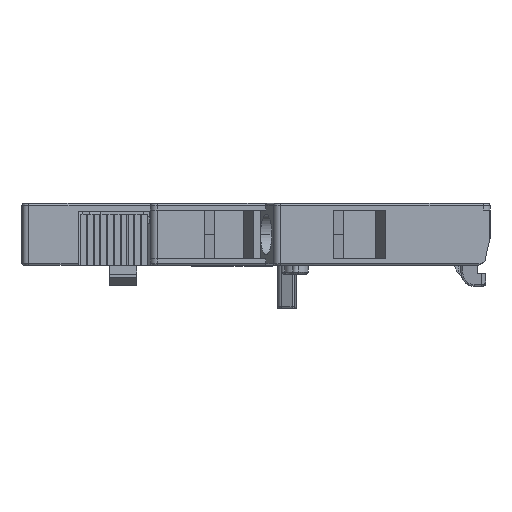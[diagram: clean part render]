
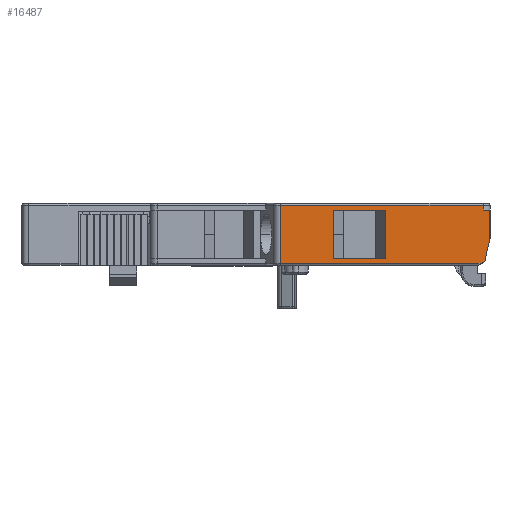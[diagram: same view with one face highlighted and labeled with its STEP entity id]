
A CAD part, left-side view. The second image highlights one B-rep face of the part: STEP entity #16487.
In plain terms, the highlighted planar face has unit normal (-1, 0, 0).
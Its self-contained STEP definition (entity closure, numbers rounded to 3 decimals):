
#1002=DIRECTION('',(0.,1.,0.));
#1003=VECTOR('',#1002,29.818);
#1004=CARTESIAN_POINT('',(-44.5,-49.018,0.3));
#1005=LINE('',#1004,#1003);
#1011=CARTESIAN_POINT('',(-44.5,-49.018,0.3));
#2248=DIRECTION('',(0.,-1.,0.));
#2249=VECTOR('',#2248,1.);
#2250=CARTESIAN_POINT('',(-44.5,-49.2,8.2));
#2251=LINE('',#2250,#2249);
#3213=DIRECTION('',(0.,-1.,0.));
#3214=VECTOR('',#3213,30.);
#3215=CARTESIAN_POINT('',(-44.5,-19.2,8.9));
#3216=LINE('',#3215,#3214);
#3259=DIRECTION('',(0.,0.,-1.));
#3260=VECTOR('',#3259,0.7);
#3261=CARTESIAN_POINT('',(-44.5,-49.2,8.9));
#3262=LINE('',#3261,#3260);
#3267=DIRECTION('',(0.,0.,1.));
#3268=VECTOR('',#3267,4.2);
#3269=CARTESIAN_POINT('',(-44.5,-50.2,4.));
#3270=LINE('',#3269,#3268);
#3271=DIRECTION('',(0.,-0.22,0.976));
#3272=VECTOR('',#3271,3.117);
#3273=CARTESIAN_POINT('',(-44.5,-49.516,0.959));
#3274=LINE('',#3273,#3272);
#3275=CARTESIAN_POINT('',(-44.5,-48.54,1.178));
#3276=DIRECTION('',(-1.,0.,0.));
#3277=DIRECTION('',(0.,-0.478,-0.878));
#3278=AXIS2_PLACEMENT_3D('',#3275,#3276,#3277);
#3280=DIRECTION('',(0.,-1.,0.));
#3281=VECTOR('',#3280,7.601);
#3282=CARTESIAN_POINT('',(-44.5,-27.1,8.2));
#3283=LINE('',#3282,#3281);
#3288=DIRECTION('',(0.,0.,-1.));
#3289=VECTOR('',#3288,8.6);
#3290=CARTESIAN_POINT('',(-44.5,-19.2,8.9));
#3291=LINE('',#3290,#3289);
#4050=DIRECTION('',(0.,0.,1.));
#4051=VECTOR('',#4050,7.2);
#4052=CARTESIAN_POINT('',(-44.5,-34.701,1.));
#4053=LINE('',#4052,#4051);
#4058=DIRECTION('',(0.,-1.,0.));
#4059=VECTOR('',#4058,7.602);
#4060=CARTESIAN_POINT('',(-44.5,-27.099,1.));
#4061=LINE('',#4060,#4059);
#4110=DIRECTION('',(0.,0.,-1.));
#4111=VECTOR('',#4110,3.6);
#4112=CARTESIAN_POINT('',(-44.5,-27.099,4.6));
#4113=LINE('',#4112,#4111);
#4114=DIRECTION('',(0.,1.,0.));
#4115=VECTOR('',#4114,0.001);
#4116=CARTESIAN_POINT('',(-44.5,-27.1,4.6));
#4117=LINE('',#4116,#4115);
#4122=DIRECTION('',(0.,0.,-1.));
#4123=VECTOR('',#4122,3.6);
#4124=CARTESIAN_POINT('',(-44.5,-27.1,8.2));
#4125=LINE('',#4124,#4123);
#8625=CARTESIAN_POINT('',(-44.5,-50.2,4.));
#8626=VERTEX_POINT('',#8625);
#8627=CARTESIAN_POINT('',(-44.5,-50.2,8.2));
#8628=VERTEX_POINT('',#8627);
#8631=CARTESIAN_POINT('',(-44.5,-49.516,0.959));
#8632=VERTEX_POINT('',#8631);
#8633=VERTEX_POINT('',#1011);
#8634=CARTESIAN_POINT('',(-44.5,-19.2,0.3));
#8635=VERTEX_POINT('',#8634);
#8636=CARTESIAN_POINT('',(-44.5,-27.099,1.));
#8637=CARTESIAN_POINT('',(-44.5,-34.701,1.));
#8638=VERTEX_POINT('',#8636);
#8639=VERTEX_POINT('',#8637);
#9995=CARTESIAN_POINT('',(-44.5,-27.1,8.2));
#9997=VERTEX_POINT('',#9995);
#10093=CARTESIAN_POINT('',(-44.5,-19.2,8.9));
#10094=VERTEX_POINT('',#10093);
#10095=CARTESIAN_POINT('',(-44.5,-49.2,8.9));
#10096=VERTEX_POINT('',#10095);
#10097=CARTESIAN_POINT('',(-44.5,-27.1,4.6));
#10098=VERTEX_POINT('',#10097);
#10267=CARTESIAN_POINT('',(-44.5,-49.2,8.2));
#10269=VERTEX_POINT('',#10267);
#10271=CARTESIAN_POINT('',(-44.5,-34.701,8.2));
#10273=VERTEX_POINT('',#10271);
#10276=CARTESIAN_POINT('',(-44.5,-27.099,4.6));
#10278=VERTEX_POINT('',#10276);
#16455=CARTESIAN_POINT('',(-44.5,-18.2,0.));
#16456=DIRECTION('',(-1.,0.,0.));
#16457=DIRECTION('',(0.,-1.,0.));
#16458=AXIS2_PLACEMENT_3D('',#16455,#16456,#16457);
#16459=PLANE('',#16458);
#16461=ORIENTED_EDGE('',*,*,#16460,.F.);
#16462=ORIENTED_EDGE('',*,*,#16361,.T.);
#16463=ORIENTED_EDGE('',*,*,#16441,.T.);
#16464=ORIENTED_EDGE('',*,*,#14570,.T.);
#16466=ORIENTED_EDGE('',*,*,#16465,.F.);
#16468=ORIENTED_EDGE('',*,*,#16467,.F.);
#16470=ORIENTED_EDGE('',*,*,#16469,.F.);
#16471=ORIENTED_EDGE('',*,*,#12078,.T.);
#16472=EDGE_LOOP('',(#16461,#16462,#16463,#16464,#16466,#16468,#16470,#16471));
#16473=FACE_OUTER_BOUND('',#16472,.F.);
#16475=ORIENTED_EDGE('',*,*,#16474,.T.);
#16476=ORIENTED_EDGE('',*,*,#13168,.F.);
#16478=ORIENTED_EDGE('',*,*,#16477,.T.);
#16480=ORIENTED_EDGE('',*,*,#16479,.T.);
#16482=ORIENTED_EDGE('',*,*,#16481,.T.);
#16484=ORIENTED_EDGE('',*,*,#16483,.T.);
#16485=EDGE_LOOP('',(#16475,#16476,#16478,#16480,#16482,#16484));
#16486=FACE_BOUND('',#16485,.F.);
#16487=ADVANCED_FACE('',(#16473,#16486),#16459,.T.);
#3279=CIRCLE('',#3278,1.);
#12078=EDGE_CURVE('',#8633,#8635,#1005,.T.);
#13168=EDGE_CURVE('',#9997,#10273,#3283,.T.);
#14570=EDGE_CURVE('',#10269,#8628,#2251,.T.);
#16361=EDGE_CURVE('',#10094,#10096,#3216,.T.);
#16441=EDGE_CURVE('',#10096,#10269,#3262,.T.);
#16460=EDGE_CURVE('',#10094,#8635,#3291,.T.);
#16465=EDGE_CURVE('',#8626,#8628,#3270,.T.);
#16467=EDGE_CURVE('',#8632,#8626,#3274,.T.);
#16469=EDGE_CURVE('',#8633,#8632,#3279,.T.);
#16474=EDGE_CURVE('',#8639,#10273,#4053,.T.);
#16477=EDGE_CURVE('',#9997,#10098,#4125,.T.);
#16479=EDGE_CURVE('',#10098,#10278,#4117,.T.);
#16481=EDGE_CURVE('',#10278,#8638,#4113,.T.);
#16483=EDGE_CURVE('',#8638,#8639,#4061,.T.);
